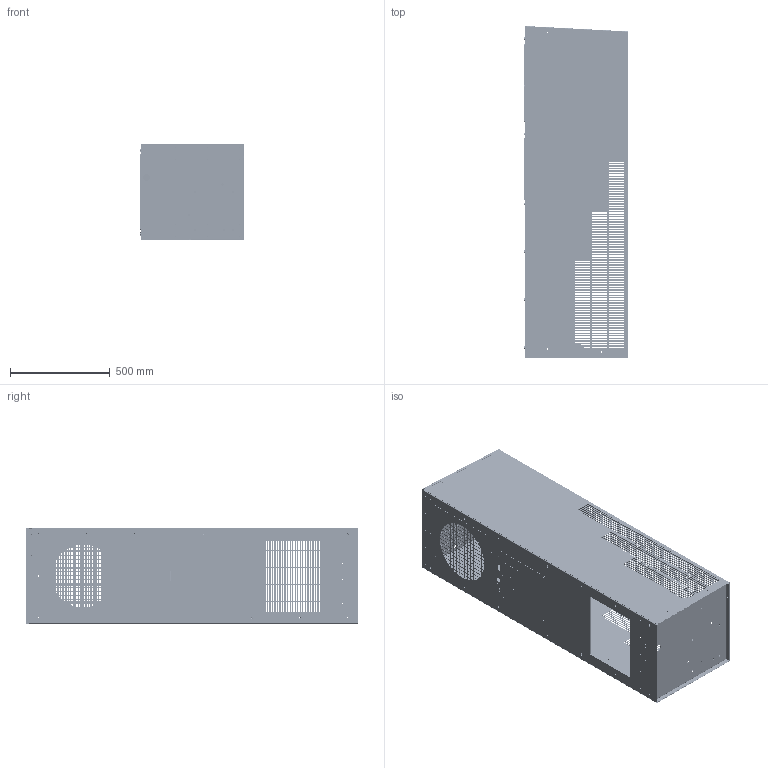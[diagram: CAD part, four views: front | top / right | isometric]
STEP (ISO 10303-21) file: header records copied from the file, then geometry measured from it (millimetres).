
FILE_DESCRIPTION (( 'STEP AP203' ), '1' );
FILE_NAME ('DTS 3641.STEP', '2017-12-01T16:52:46', ( '' ), ( '' ), 'SwSTEP 2.0', 'SolidWorks 2015', '' );
FILE_SCHEMA (( 'CONFIG_CONTROL_DESIGN' ));
Products named in the file (16): 11189-045; 30150-020; 11189-405_Standard; 30150-023; DTS 3641; 085170832; 085110180; 30152-012; 30152-018; 020140042_020140042; 30152-019; 30152-013; 11189-046_Standard; 30152-014; 11189-294_Standard; 005070010
Assembly tree (29 placements, depth 2):
  DTS 3641
    30152-012
    020140042_020140042  x15
    30152-013
    30152-014
    005070010
    30150-020
    30150-023
    085170832
    085110180
    30152-018
    30152-019
    11189-046_Standard
    11189-294_Standard
    11189-045
    11189-405_Standard
Bounding box: 523.7 x 1664.5 x 485.26 mm (x, y, z)
Volume: 5655008.7 mm3; surface area: 8642727.7 mm2
Topology: 45 solids, 60 shells, 17122 faces, 47452 edges, 31540 vertices
Faces by surface type: plane 11405, bspline 4871, cylinder 696, cone 150
Entity records: 753856 total; most frequent: CARTESIAN_POINT 357657, ORIENTED_EDGE 91376, DIRECTION 60118, EDGE_CURVE 45688, LINE 35204, VECTOR 35204, VERTEX_POINT 30420, EDGE_LOOP 20150
